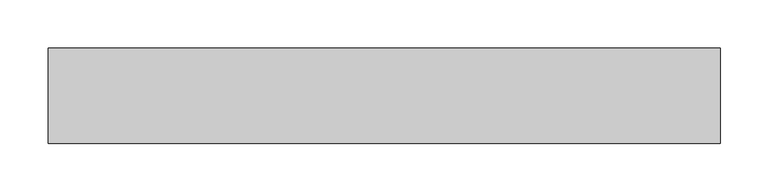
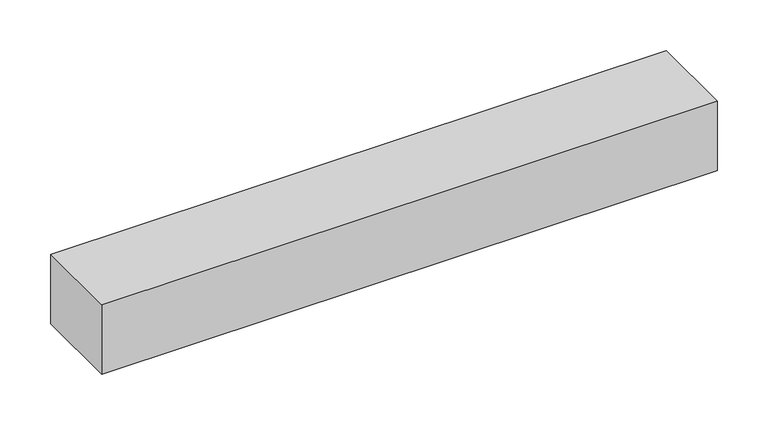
"""IFC4 building model written with IfcOpenShell, lengths in millimetres: plate geometry, Panel del sistema vacío : Vacío."""

from ifc_helpers import new_model, si_unit, origin, origin_with_axes, place, context, project, spatial, polyline, outline, extrude, source, transform, mapped, element, save


def plate_91745229(model_context):
    return source(origin(), model_context, "Body", "SweptSolid", [
        extrude(outline(polyline([(350.0, 50.0), (-350.0, 50.0), (-350.0, 150.0), (350.0, 150.0), (350.0, 50.0)])), origin_with_axes(), (0.0, 0.0, 1.0), 83.5416667),
    ])


if __name__ == "__main__":
    model = new_model("IFC4")
    model_context = context("Model", 3, world=origin())
    ifc_project = project(units=[si_unit("LENGTHUNIT", "METRE", prefix="MILLI")], contexts=[model_context])
    site = spatial("IfcSite", under=ifc_project)
    building = spatial("IfcBuilding", under=site)
    placement = place(None, origin())
    plate_shape = plate_91745229(model_context)
    element("IfcPlate", 1, ObjectType="Panel del sistema vacío : Vacío", at=placement, inside=building, context=model_context, shape_type="MappedRepresentation", body=[
        mapped(plate_shape, transform((0.0, 0.0, 0.0), x_axis=(1.0, 0.0, 0.0), y_axis=(0.0, 1.0, 0.0), z_axis=(0.0, 0.0, 1.0))),
    ])
    save(model, "model.ifc")
